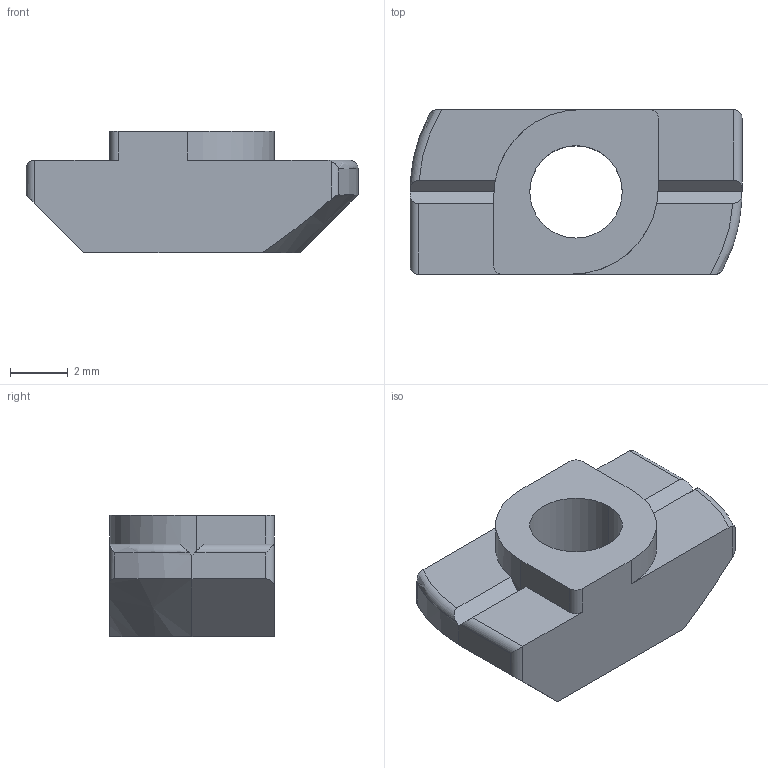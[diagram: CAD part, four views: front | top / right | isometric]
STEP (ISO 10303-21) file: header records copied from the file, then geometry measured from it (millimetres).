
FILE_DESCRIPTION (( 'STEP AP214' ), '1' );
FILE_NAME ('096h06410.STEP', '2012-02-21T13:24:40', ( 'de01pc046' ), ( 'Fath GmbH' ), 'SwSTEP 2.0', 'SolidWorks 2011', '' );
FILE_SCHEMA (( 'AUTOMOTIVE_DESIGN' ));
Length unit declared in the file: millimetre
Products named in the file (1): 096h06410
Bounding box: 11.5 x 5.7 x 4.2 mm (x, y, z)
Volume: 175.4 mm3; surface area: 258.1 mm2
Topology: 1 solids, 1 shells, 36 faces, 96 edges, 62 vertices
Faces by surface type: plane 18, cylinder 14, torus 2, cone 2
Entity records: 1180 total; most frequent: CARTESIAN_POINT 281, ORIENTED_EDGE 192, DIRECTION 168, EDGE_CURVE 96, VERTEX_POINT 62, AXIS2_PLACEMENT_3D 57, LINE 54, VECTOR 54
